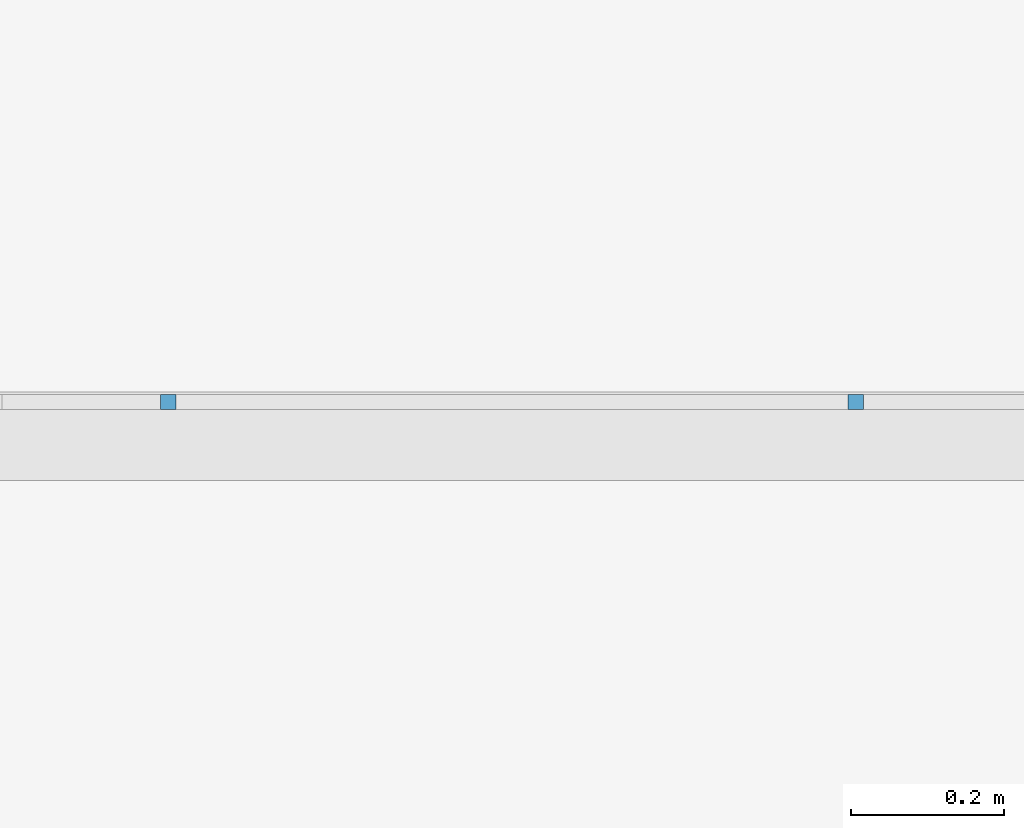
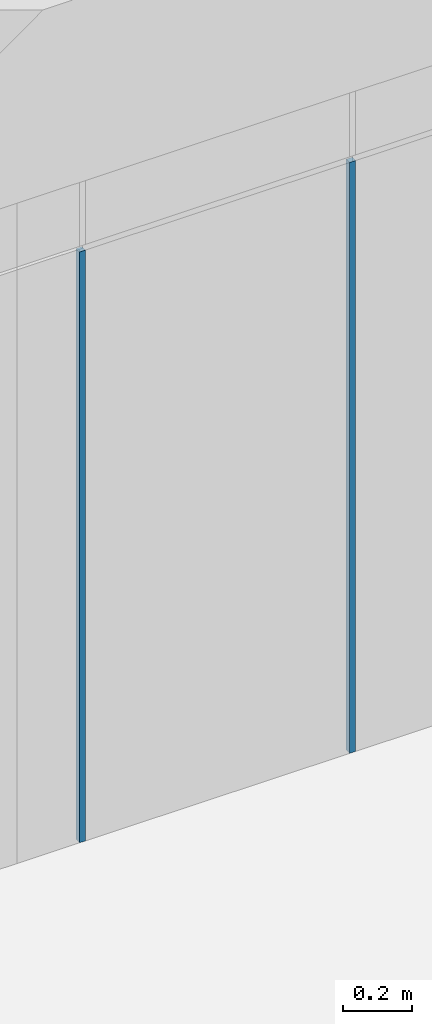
# One storey, part 4 of 66: 2 members, 1 element without a shape of its own.
"""IFC2X3 building model written with IfcOpenShell, lengths in millimetres."""

from ifc_helpers import new_model, entity, si_unit, converted_unit, derived_unit, direction, frame, origin, origin_2d_with_axis, place, context, subcontext, project, spatial, rectangle, extrude, source, transform, mapped, material, type_object, type_shapes, element, aggregate, save


model = new_model("IFC2X3")

# Units and contexts
model_context = context("Model", 3, precision=0.01, world=origin(), true_north=direction((6.12303176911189e-17, 1.0)))
body_context = subcontext(model_context, "Body", "Model", "MODEL_VIEW")
ifc_project = project(units=[si_unit("LENGTHUNIT", "METRE", prefix="MILLI"), si_unit("AREAUNIT", "SQUARE_METRE"), si_unit("VOLUMEUNIT", "CUBIC_METRE"), converted_unit("PLANEANGLEUNIT", "DEGREE", entity("IfcRatioMeasure", 0.0174532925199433), si_unit("PLANEANGLEUNIT", "RADIAN"), dimensions=[0, 0, 0, 0, 0, 0, 0]), si_unit("MASSUNIT", "GRAM", prefix="KILO"), derived_unit("MASSDENSITYUNIT", [(si_unit("MASSUNIT", "GRAM", prefix="KILO"), 1), (si_unit("LENGTHUNIT", "METRE"), -3)]), si_unit("TIMEUNIT", "SECOND"), si_unit("FREQUENCYUNIT", "HERTZ"), si_unit("THERMODYNAMICTEMPERATUREUNIT", "DEGREE_CELSIUS"), derived_unit("THERMALTRANSMITTANCEUNIT", [(si_unit("MASSUNIT", "GRAM", prefix="KILO"), 1), (si_unit("THERMODYNAMICTEMPERATUREUNIT", "KELVIN"), -1), (si_unit("TIMEUNIT", "SECOND"), -3)]), derived_unit("VOLUMETRICFLOWRATEUNIT", [(si_unit("LENGTHUNIT", "METRE"), 3), (si_unit("TIMEUNIT", "SECOND"), -1)]), si_unit("ELECTRICCURRENTUNIT", "AMPERE"), si_unit("ELECTRICVOLTAGEUNIT", "VOLT"), si_unit("POWERUNIT", "WATT"), si_unit("FORCEUNIT", "NEWTON", prefix="KILO"), si_unit("ILLUMINANCEUNIT", "LUX"), si_unit("LUMINOUSFLUXUNIT", "LUMEN"), si_unit("LUMINOUSINTENSITYUNIT", "CANDELA"), derived_unit("USERDEFINED", [(si_unit("MASSUNIT", "GRAM", prefix="KILO"), -1), (si_unit("LENGTHUNIT", "METRE"), -2), (si_unit("TIMEUNIT", "SECOND"), 3), (si_unit("LUMINOUSFLUXUNIT", "LUMEN"), 1)]), derived_unit("LINEARVELOCITYUNIT", [(si_unit("LENGTHUNIT", "METRE"), 1), (si_unit("TIMEUNIT", "SECOND"), -1)]), si_unit("PRESSUREUNIT", "PASCAL"), derived_unit("USERDEFINED", [(si_unit("LENGTHUNIT", "METRE"), -2), (si_unit("MASSUNIT", "GRAM", prefix="KILO"), 1), (si_unit("TIMEUNIT", "SECOND"), -2)])], contexts=[model_context])

# Site, building, storey
site_placement = place(None, frame((-151.875543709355, 2715.0, 0.0)))
site = spatial("IfcSite", under=ifc_project, at=site_placement, Name="Surface", CompositionType="ELEMENT")
building_placement = place(site_placement, origin())
building = spatial("IfcBuilding", under=site, at=building_placement, CompositionType="ELEMENT")
storey_placement = place(building_placement, frame((0.0, 0.0, 3350.0)))
storey = spatial("IfcBuildingStorey", under=building, at=storey_placement, Name="2 korrus", CompositionType="ELEMENT", Elevation=3350.00000000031)

# Curtain wall, members
curtain_wall_type = type_object("IfcCurtainWallType", Name="Curtain Wall:Klaassein KLS-09", PredefinedType="NOTDEFINED")
curtain_wall_placement = place(storey_placement, frame((0.0, 0.0, -3350.0)))
curtain_wall = element("IfcCurtainWall", 1, at=curtain_wall_placement, inside=storey, type_object=curtain_wall_type, Name="Curtain Wall:Klaassein KLS-09", ObjectType="Curtain Wall:Klaassein KLS-09")
ifc_material = material(Name="__Uks_hele tamm")
member_type_1 = type_object("IfcMemberType", Name="20 x 20mm", PredefinedType="MEMBER")
shared_shape_1 = source(origin(), body_context, "Body", "SweptSolid", [
    extrude(rectangle(XDim=20.0, YDim=20.0, at=origin_2d_with_axis()), frame((0.0, 0.0, -2080.0), z_axis=(0.0, 0.0, 1.0), x_axis=(0.0, -1.0, 0.0)), (0.0, 0.0, 1.0), 2080.0),
])
type_shapes(member_type_1, [shared_shape_1])
member_1_placement = place(storey_placement, frame((16420.0703794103, 4352.04493399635, 0.0), z_axis=(0.0, 0.0, -1.0), x_axis=(1.0, 0.0, 0.0)))
member_1 = element("IfcMember", 2, at=member_1_placement, type_object=member_type_1, material=ifc_material, Name="Rectangular Mullion:20 x 20mm", ObjectType="20 x 20mm", context=body_context, shape_type="MappedRepresentation", body=[
    mapped(shared_shape_1, transform((0.0, 0.0, 0.0), scale=1.0)),
])
member_type_2 = type_object("IfcMemberType", Name="20 x 20mm", PredefinedType="MEMBER")
shared_shape_2 = source(origin(), body_context, "Body", "SweptSolid", [
    extrude(rectangle(XDim=20.0, YDim=20.0, at=origin_2d_with_axis()), frame((0.0, 0.0, -2080.0), z_axis=(0.0, 0.0, 1.0), x_axis=(0.0, -1.0, 0.0)), (0.0, 0.0, 1.0), 2080.0),
])
type_shapes(member_type_2, [shared_shape_2])
member_2_placement = place(storey_placement, frame((17320.0703794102, 4352.04493399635, 0.0), z_axis=(0.0, 0.0, -1.0), x_axis=(1.0, 0.0, 0.0)))
member_2 = element("IfcMember", 3, at=member_2_placement, type_object=member_type_2, material=ifc_material, Name="Rectangular Mullion:20 x 20mm", ObjectType="20 x 20mm", context=body_context, shape_type="MappedRepresentation", body=[
    mapped(shared_shape_2, transform((0.0, 0.0, 0.0), scale=1.0)),
])
aggregate(curtain_wall, [member_1, member_2])

save(model, "model.ifc")
